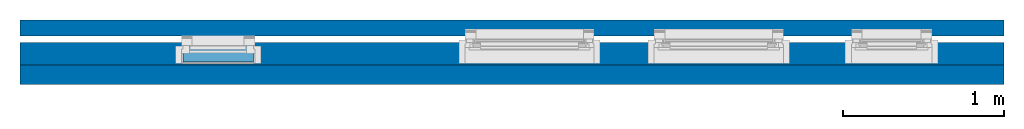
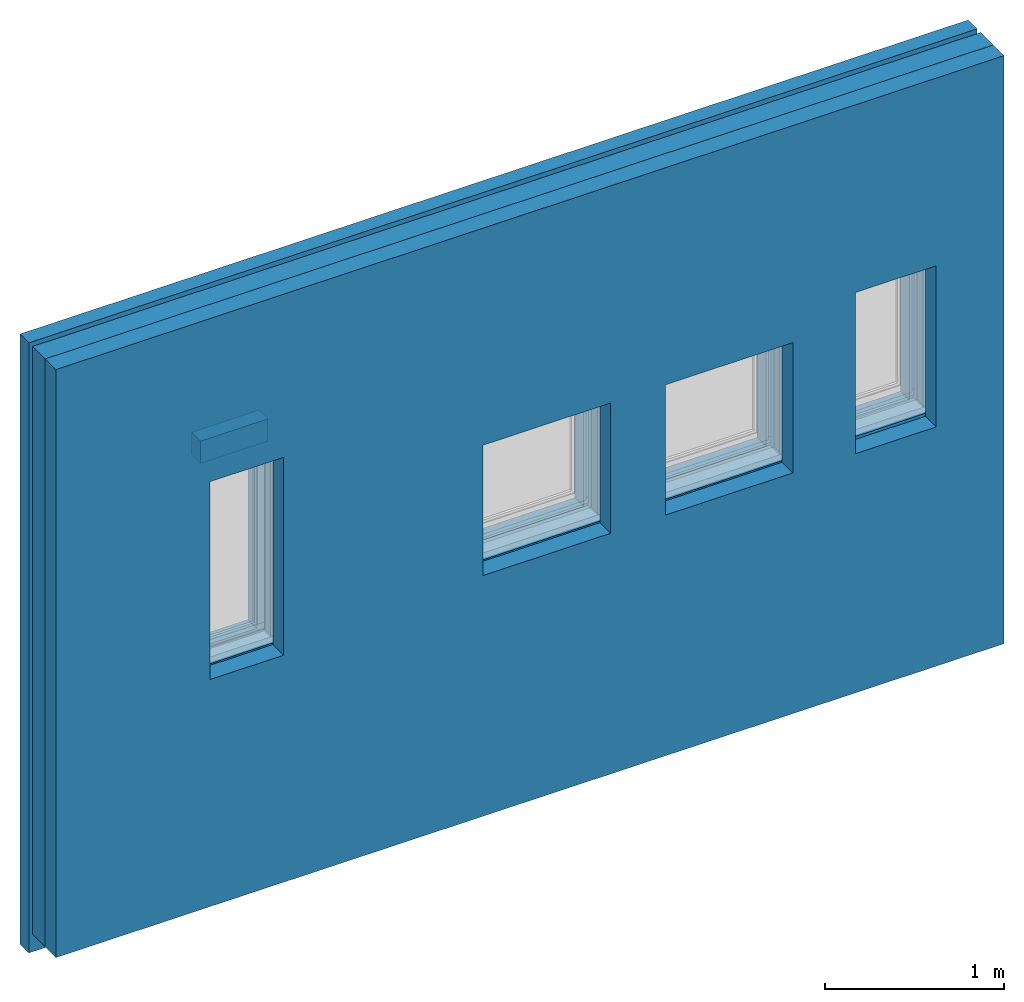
# One storey, part 1 of 4: 3 walls, 1 assembly, 12 openings.
"""IFC2X3 building model written with IfcOpenShell, lengths in millimetres."""

from ifc_helpers import new_model, entity, si_unit, converted_unit, derived_unit, direction, frame, frame_2d, origin, origin_2d_with_axis, place, context, subcontext, project, spatial, rectangle, extrude, faceted_brep, source, transform, mapped, material, layer, layer_set, layer_usage, type_object, element, save


model = new_model("IFC2X3")

# Units and contexts
model_context = context("Model", 3, precision=0.01, world=origin(), true_north=direction((6.12303176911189e-17, 1.0)))
body_context = subcontext(model_context, "Body", "Model", "MODEL_VIEW")
ifc_project = project(units=[si_unit("LENGTHUNIT", "METRE", prefix="MILLI"), si_unit("AREAUNIT", "SQUARE_METRE"), si_unit("VOLUMEUNIT", "CUBIC_METRE"), converted_unit("PLANEANGLEUNIT", "DEGREE", entity("IfcRatioMeasure", 0.0174532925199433), si_unit("PLANEANGLEUNIT", "RADIAN"), dimensions=[0, 0, 0, 0, 0, 0, 0]), si_unit("MASSUNIT", "GRAM", prefix="KILO"), derived_unit("MASSDENSITYUNIT", [(si_unit("MASSUNIT", "GRAM", prefix="KILO"), 1), (si_unit("LENGTHUNIT", "METRE"), -3)]), si_unit("TIMEUNIT", "SECOND"), si_unit("FREQUENCYUNIT", "HERTZ"), si_unit("THERMODYNAMICTEMPERATUREUNIT", "DEGREE_CELSIUS"), derived_unit("THERMALTRANSMITTANCEUNIT", [(si_unit("MASSUNIT", "GRAM", prefix="KILO"), 1), (si_unit("THERMODYNAMICTEMPERATUREUNIT", "KELVIN"), -1), (si_unit("TIMEUNIT", "SECOND"), -3)]), derived_unit("VOLUMETRICFLOWRATEUNIT", [(si_unit("LENGTHUNIT", "METRE"), 3), (si_unit("TIMEUNIT", "SECOND"), -1)]), si_unit("ELECTRICCURRENTUNIT", "AMPERE"), si_unit("ELECTRICVOLTAGEUNIT", "VOLT"), si_unit("POWERUNIT", "WATT"), si_unit("FORCEUNIT", "NEWTON", prefix="KILO"), si_unit("ILLUMINANCEUNIT", "LUX"), si_unit("LUMINOUSFLUXUNIT", "LUMEN"), si_unit("LUMINOUSINTENSITYUNIT", "CANDELA"), derived_unit("USERDEFINED", [(si_unit("MASSUNIT", "GRAM", prefix="KILO"), -1), (si_unit("LENGTHUNIT", "METRE"), -2), (si_unit("TIMEUNIT", "SECOND"), 3), (si_unit("LUMINOUSFLUXUNIT", "LUMEN"), 1)]), derived_unit("LINEARVELOCITYUNIT", [(si_unit("LENGTHUNIT", "METRE"), 1), (si_unit("TIMEUNIT", "SECOND"), -1)]), si_unit("PRESSUREUNIT", "PASCAL"), derived_unit("USERDEFINED", [(si_unit("LENGTHUNIT", "METRE"), -2), (si_unit("MASSUNIT", "GRAM", prefix="KILO"), 1), (si_unit("TIMEUNIT", "SECOND"), -2)])], contexts=[model_context])

# Site, building, storey
site_placement = place(None, origin())
site = spatial("IfcSite", under=ifc_project, at=site_placement, Name="Default", CompositionType="ELEMENT")
building_placement = place(site_placement, origin())
building = spatial("IfcBuilding", under=site, at=building_placement, CompositionType="ELEMENT")
storey_placement = place(building_placement, origin())
storey = spatial("IfcBuildingStorey", under=building, at=storey_placement, Name="Level 1", CompositionType="ELEMENT", Elevation=0.0)

# Wall, openings
ifc_material_1 = material(Name="NLRS_g2_baksteen_bestaand")
ifc_layer_1 = layer(ifc_material_1, 100.0)
ifc_layer_set_1 = layer_set([ifc_layer_1], Name="Basic Wall:NLRS_21_WA_metselwerk bestaand 100mm")
ifc_layer_usage_1 = layer_usage(ifc_layer_set_1, "AXIS2", "NEGATIVE", 50.0)
wall_type_1 = type_object("IfcWallType", Name="Basic Wall:NLRS_21_WA_metselwerk bestaand 100mm", PredefinedType="STANDARD", material=ifc_layer_set_1)
wall_1_placement = place(storey_placement, frame((-2610.88435228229, 5921.39645578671, -150.0)))
wall_1 = element("IfcWallStandardCase", 1, at=wall_1_placement, inside=storey, type_object=wall_type_1, material=ifc_layer_usage_1, Name="Basic Wall:NLRS_21_WA_metselwerk bestaand 100mm", ObjectType="Basic Wall:NLRS_21_WA_metselwerk bestaand 100mm", context=body_context, shape_type="SweptSolid", body=[
    extrude(rectangle(XDim=6100.0, YDim=100.000000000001, at=frame_2d((3050.0, 0.0), x_axis=(-1.0, 0.0))), origin(), (0.0, 0.0, 1.0), 4150.0),
])
opening_1_placement = place(wall_1_placement, origin())
element("IfcOpeningElement", 2, at=opening_1_placement, cuts=wall_1, Name="Basic Wall:NLRS_21_WA_metselwerk bestaand 100mm", ObjectType="Opening", context=body_context, shape_type="SweptSolid", body=[
    extrude(rectangle(XDim=885.999999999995, YDim=820.000000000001, at=frame_2d((2.8421709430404e-14, -2.8421709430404e-13), x_axis=(0.0, 1.0))), frame((3158.71720668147, -121.0, 2230.1275233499), z_axis=(0.0, 1.0, 0.0), x_axis=(1.0, 0.0, 0.0)), (0.0, 0.0, 1.0), 171.000000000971),
])
opening_2_placement = place(wall_1_placement, origin())
element("IfcOpeningElement", 3, at=opening_2_placement, cuts=wall_1, Name="Basic Wall:NLRS_21_WA_metselwerk bestaand 100mm", ObjectType="Opening", context=body_context, shape_type="SweptSolid", body=[
    extrude(rectangle(XDim=885.999999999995, YDim=820.000000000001, at=frame_2d((-1.4210854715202e-13, 2.8421709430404e-13), x_axis=(0.0, 1.0))), frame((4331.78741479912, -121.0, 2230.1275233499), z_axis=(0.0, 1.0, 0.0), x_axis=(1.0, 0.0, 0.0)), (0.0, 0.0, 1.0), 171.000000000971),
])
opening_3_placement = place(wall_1_placement, origin())
element("IfcOpeningElement", 4, at=opening_3_placement, cuts=wall_1, Name="Basic Wall:NLRS_21_WA_metselwerk bestaand 100mm", ObjectType="Opening", context=body_context, shape_type="SweptSolid", body=[
    extrude(rectangle(XDim=1095.99999999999, YDim=520.0, at=frame_2d((0.0, 0.0), x_axis=(0.0, 1.0))), frame((5403.85762292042, -121.0, 2325.1275233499), z_axis=(0.0, 1.0, 0.0), x_axis=(1.0, 0.0, 0.0)), (0.0, 0.0, 1.0), 171.000000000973),
])
opening_4_placement = place(wall_1_placement, origin())
element("IfcOpeningElement", 5, at=opening_4_placement, cuts=wall_1, Name="Basic Wall:NLRS_21_WA_metselwerk bestaand 100mm", ObjectType="Opening", context=body_context, shape_type="SweptSolid", body=[
    extrude(rectangle(XDim=1345.4, YDim=474.999999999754, at=frame_2d((1.27897692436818e-13, -2.8421709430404e-13), x_axis=(0.0, 1.0))), frame((1228.0, -121.0, 2367.30000000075), z_axis=(0.0, 1.0, 0.0), x_axis=(1.0, 0.0, 0.0)), (0.0, 0.0, 1.0), 171.000000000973),
])

ifc_material_2 = material(Name="NLRS_n7_isolatie_EPS_140mm")
ifc_layer_2 = layer(ifc_material_2, 140.0)
ifc_layer_set_2 = layer_set([ifc_layer_2], Name="Basic Wall:NLRS_21_WA_isolatie_EPS 140mm")
ifc_layer_usage_2 = layer_usage(ifc_layer_set_2, "AXIS2", "NEGATIVE", 70.0)
wall_type_2 = type_object("IfcWallType", Name="Basic Wall:NLRS_21_WA_isolatie_EPS 140mm", PredefinedType="STANDARD", material=ifc_layer_set_2)
wall_2_placement = place(storey_placement, frame((-2610.8843522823, 5761.39645578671, 0.0)))
wall_2 = element("IfcWallStandardCase", 6, at=wall_2_placement, inside=storey, type_object=wall_type_2, material=ifc_layer_usage_2, Name="Basic Wall:NLRS_21_WA_isolatie_EPS 140mm", ObjectType="Basic Wall:NLRS_21_WA_isolatie_EPS 140mm", context=body_context, shape_type="SweptSolid", body=[
    extrude(rectangle(XDim=6100.0, YDim=140.000000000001, at=frame_2d((3050.0, 0.0), x_axis=(-1.0, 0.0))), origin(), (0.0, 0.0, 1.0), 4000.0),
])
opening_5_placement = place(wall_2_placement, frame((2720.71720668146, -70.0, 1647.12752334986)))
element("IfcOpeningElement", 7, at=opening_5_placement, cuts=wall_2, Name="Basic Wall:NLRS_21_WA_isolatie_EPS 140mm", ObjectType="Opening", context=body_context, shape_type="Brep", body=[
    faceted_brep([(0.0, 155.0, 0.0), (0.0, 0.0, 0.0), (0.0, 0.0, 876.330020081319), (0.0, 155.0, 868.206814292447), (876.0, 155.0, 0.0), (876.0, 155.0, 868.206814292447), (876.0, 0.0, 876.330020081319), (876.0, 0.0, 0.0)], [[[0, 1, 2, 3]], [[4, 5, 6, 7]], [[1, 0, 4, 7]], [[2, 1, 7, 6]], [[0, 3, 5, 4]], [[3, 2, 6, 5]]]),
])
opening_6_placement = place(wall_2_placement, frame((3893.78741479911, -70.0, 1647.12752334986)))
element("IfcOpeningElement", 8, at=opening_6_placement, cuts=wall_2, Name="Basic Wall:NLRS_21_WA_isolatie_EPS 140mm", ObjectType="Opening", context=body_context, shape_type="Brep", body=[
    faceted_brep([(0.0, 155.0, 0.0), (0.0, 0.0, 0.0), (0.0, 0.0, 876.330020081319), (0.0, 155.0, 868.206814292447), (876.0, 155.0, 0.0), (876.0, 155.0, 868.206814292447), (876.0, 0.0, 876.330020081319), (876.0, 0.0, 0.0)], [[[0, 1, 2, 3]], [[4, 5, 6, 7]], [[1, 0, 4, 7]], [[2, 1, 7, 6]], [[0, 3, 5, 4]], [[3, 2, 6, 5]]]),
])
opening_7_placement = place(wall_2_placement, frame((5115.85762292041, -70.0, 1647.12752334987)))
element("IfcOpeningElement", 9, at=opening_7_placement, cuts=wall_2, Name="Basic Wall:NLRS_21_WA_isolatie_EPS 140mm", ObjectType="Opening", context=body_context, shape_type="Brep", body=[
    faceted_brep([(0.0, 155.0, 0.0), (0.0, 0.0, 0.0), (0.0, 0.0, 1076.33002008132), (0.0, 155.0, 1068.20681429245), (576.0, 155.0, 0.0), (576.0, 155.0, 1068.20681429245), (576.0, 0.0, 1076.33002008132), (576.0, 0.0, 0.0)], [[[0, 1, 2, 3]], [[4, 5, 6, 7]], [[1, 0, 4, 7]], [[2, 1, 7, 6]], [[0, 3, 5, 4]], [[3, 2, 6, 5]]]),
])
opening_8_placement = place(wall_2_placement, frame((962.499999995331, -70.0, 1554.60000000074)))
element("IfcOpeningElement", 10, at=opening_8_placement, cuts=wall_2, Name="Basic Wall:NLRS_21_WA_isolatie_EPS 140mm", ObjectType="Opening", context=body_context, shape_type="Brep", body=[
    faceted_brep([(0.0, 160.0, 0.0), (0.0, 0.0, 0.0), (0.0, 0.0, 1566.42172504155), (0.0, 160.0, 1558.03648035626), (531.0, 160.0, 0.0), (531.0, 160.0, 1558.03648035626), (531.0, 0.0, 1566.42172504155), (531.0, 0.0, 0.0)], [[[0, 1, 2, 3]], [[4, 5, 6, 7]], [[1, 0, 4, 7]], [[2, 1, 7, 6]], [[0, 3, 5, 4]], [[3, 2, 6, 5]]]),
])

ifc_material_3 = material(Name="NLRS_f1_kalkzandsteen_CS12")
ifc_layer_3 = layer(ifc_material_3, 120.0)
ifc_layer_set_3 = layer_set([ifc_layer_3], Name="Basic Wall:NLRS_21_WA_kalkzandsteen CS12 120mm")
ifc_layer_usage_3 = layer_usage(ifc_layer_set_3, "AXIS2", "NEGATIVE", 60.0)
wall_type_3 = type_object("IfcWallType", Name="Basic Wall:NLRS_21_WA_kalkzandsteen CS12 120mm", PredefinedType="STANDARD", material=ifc_layer_set_3)
wall_3_placement = place(storey_placement, frame((3489.11564771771, 5631.39645578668, 0.0), z_axis=(0.0, 0.0, 1.0), x_axis=(-1.0, 0.0, 0.0)))
wall_3 = element("IfcWallStandardCase", 11, at=wall_3_placement, inside=storey, type_object=wall_type_3, material=ifc_layer_usage_3, Name="Basic Wall:NLRS_21_WA_kalkzandsteen CS12 120mm", ObjectType="Basic Wall:NLRS_21_WA_kalkzandsteen CS12 120mm", context=body_context, shape_type="SweptSolid", body=[
    extrude(rectangle(XDim=6100.0, YDim=120.000000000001, at=frame_2d((3050.0, 0.0), x_axis=(-1.0, 0.0))), origin(), (0.0, 0.0, 1.0), 4000.0),
])
opening_9_placement = place(wall_3_placement, origin())
element("IfcOpeningElement", 12, at=opening_9_placement, cuts=wall_3, Name="Basic Wall:NLRS_21_WA_kalkzandsteen CS12 120mm", ObjectType="Opening", context=body_context, shape_type="SweptSolid", body=[
    extrude(rectangle(XDim=885.999999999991, YDim=819.999999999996, at=frame_2d((0.0, 8.5265128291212e-14), x_axis=(1.0, 0.0))), frame((2941.28279331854, -60.0, 2080.1275233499), z_axis=(0.0, 1.0, 0.0), x_axis=(0.0, 0.0, -1.0)), (0.0, 0.0, 1.0), 190.999999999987),
])
opening_10_placement = place(wall_3_placement, origin())
element("IfcOpeningElement", 13, at=opening_10_placement, cuts=wall_3, Name="Basic Wall:NLRS_21_WA_kalkzandsteen CS12 120mm", ObjectType="Opening", context=body_context, shape_type="SweptSolid", body=[
    extrude(rectangle(XDim=885.999999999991, YDim=819.999999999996, at=origin_2d_with_axis()), frame((1768.21258520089, -60.0, 2080.1275233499), z_axis=(0.0, 1.0, 0.0), x_axis=(0.0, 0.0, -1.0)), (0.0, 0.0, 1.0), 190.999999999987),
])
opening_11_placement = place(wall_3_placement, origin())
element("IfcOpeningElement", 14, at=opening_11_placement, cuts=wall_3, Name="Basic Wall:NLRS_21_WA_kalkzandsteen CS12 120mm", ObjectType="Opening", context=body_context, shape_type="SweptSolid", body=[
    extrude(rectangle(XDim=1095.99999999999, YDim=519.999999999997, at=origin_2d_with_axis()), frame((696.142377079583, -60.0, 2175.1275233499), z_axis=(0.0, 1.0, 0.0), x_axis=(0.0, 0.0, -1.0)), (0.0, 0.0, 1.0), 190.999999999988),
])
opening_12_placement = place(wall_3_placement, origin())
element("IfcOpeningElement", 15, at=opening_12_placement, cuts=wall_3, Name="Basic Wall:NLRS_21_WA_kalkzandsteen CS12 120mm", ObjectType="Opening", context=body_context, shape_type="SweptSolid", body=[
    extrude(rectangle(XDim=1345.4, YDim=475.0, at=origin_2d_with_axis()), frame((4872.0, -60.0, 2217.30000000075), z_axis=(0.0, 1.0, 0.0), x_axis=(0.0, 0.0, -1.0)), (0.0, 0.0, 1.0), 190.999999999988),
])

# Assembly
shared_shape = source(origin(), body_context, "Body", "SweptSolid", [
    extrude(rectangle(XDim=437.0, YDim=100.999999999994, at=frame_2d((0.0, -1.77635683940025e-14), x_axis=(1.0, 0.0))), frame((0.0, 115.499999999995, 2473.0), z_axis=(0.0, 0.0, 1.0), x_axis=(-1.0, 0.0, 0.0)), (0.0, 0.0, 1.0), 151.999999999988),
])
assembly_placement = place(storey_placement, frame((-1382.88435228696, 5876.39645578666, 450.0), z_axis=(0.0, 0.0, 1.0), x_axis=(-1.0, 0.0, 0.0)))
element("IfcElementAssembly", 16, at=assembly_placement, inside=storey, Name="NLRS_31_WI_H11_A1vg_GM:455 breed", ObjectType="NLRS_31_WI_H11_A1vg_GM:455 breed", PredefinedType="NOTDEFINED", context=body_context, shape_type="MappedRepresentation", body=[
    mapped(shared_shape, transform((0.0, 0.0, 0.0), scale=1.0)),
])

save(model, "model.ifc")
